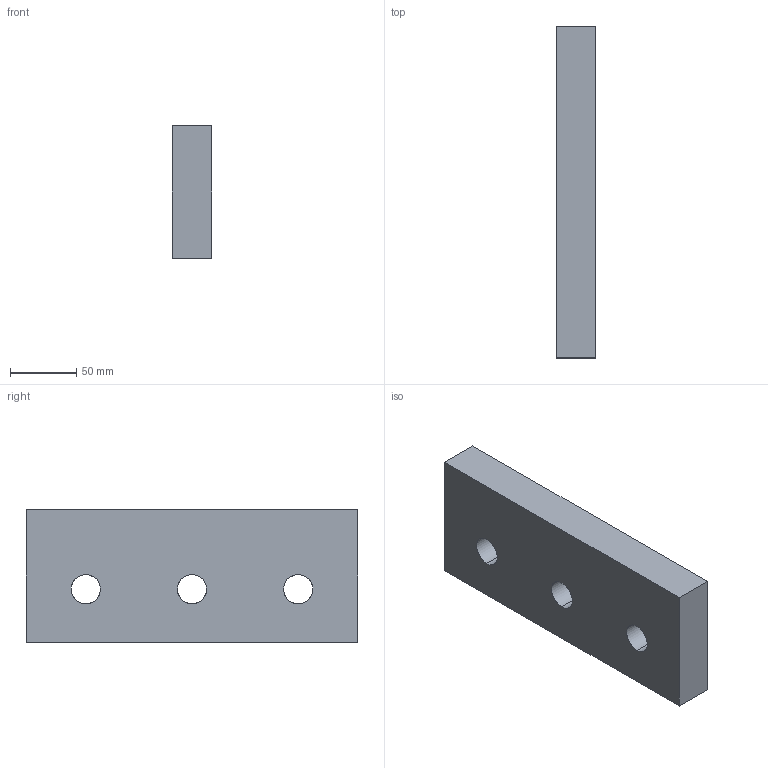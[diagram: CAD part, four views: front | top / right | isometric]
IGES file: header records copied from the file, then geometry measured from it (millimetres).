
Start section: START RECORD GO HERE.
Global section: file name: A612-100-2501.igs; native system: DASSAULT SYSTEMES CATIA V5 R20 - www.3ds.com; preprocessor: CATIA Version 5 Release 20 ; author: Utente; organization: NB04-ASUS; date: 20200414.151813; units: millimetre
Bounding box: 30 x 250 x 100 mm (x, y, z)
Surface area: 74939.6 mm2 (no closed solid volume)
Topology: 0 solids, 0 shells, 12 faces, 60 edges, 60 vertices
Faces by surface type: extrusion 6, revolution 6
